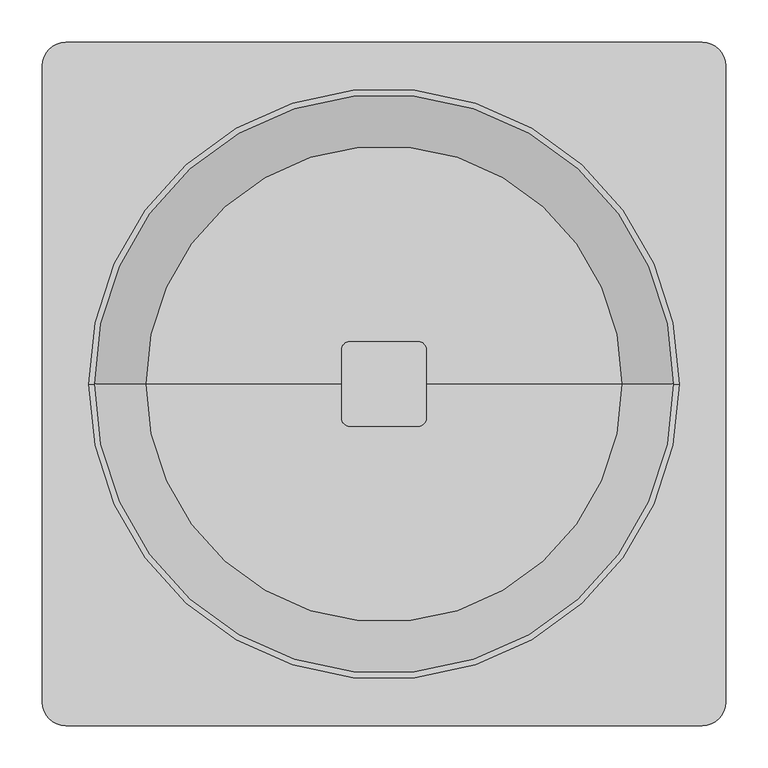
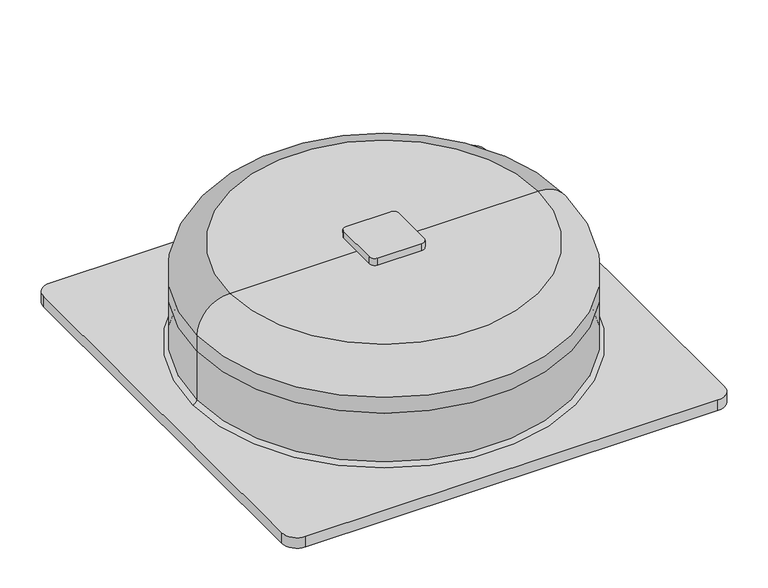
"""IFC4 building model written with IfcOpenShell, lengths in millimetres: unitary equipment geometry, VE-Wentylator-ParaForma-Harmann-WAF-Nawiewny : 630/6/8/12200T."""

from ifc_helpers import new_model, si_unit, point, frame, frame_2d, origin, origin_with_axes, origin_2d, place, context, project, spatial, polyline, circle_curve, ellipse_curve, trimmed, segment, composite_curve, outline, extrude, source, transform, mapped, element, save
from ifc_brep_helpers import plane_surface, cylinder_surface, revolved_surface, advanced_brep


def unitary_equipment_527b3e4e(model_context):
    return source(origin(), model_context, "Body", "SolidModel", [
        advanced_brep(
        [(341.0, 0.0, 120.7), (0.0, 0.0, 120.7), (-341.0, 0.0, 120.7), (341.0, 0.0, 150.8), (-341.0, 0.0, 150.8), (280.8, 0.0, 211.0), (-280.8, 0.0, 211.0), (0.0, 0.0, 211.0)],
        [
            (0, 1),
            (1, 2),
            (2, 0, circle_curve(frame((0.0, 0.0, 120.7), z_axis=(0.0, 0.0, -1.0), x_axis=(-1.0000000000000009, 0.0, 0.0)), 341.0)),
            (0, 2, circle_curve(frame((0.0, 0.0, 120.7), z_axis=(0.0, 0.0, -1.0), x_axis=(-1.0000000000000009, 0.0, 0.0)), 341.0)),
            (3, 0),
            (2, 4),
            (4, 3, circle_curve(frame((0.0, 0.0, 150.8), z_axis=(0.0, 0.0, -1.0), x_axis=(-1.0000000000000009, 0.0, 0.0)), 341.0)),
            (3, 4, circle_curve(frame((0.0, 0.0, 150.8), z_axis=(0.0, 0.0, -1.0), x_axis=(-1.0000000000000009, 0.0, 0.0)), 341.0)),
            (5, 3, circle_curve(frame((280.8, 0.0, 150.8), z_axis=(0.0, 1.0000000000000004, 0.0), x_axis=(0.0, 0.0, -1.0000000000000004)), 60.2)),
            (4, 6, circle_curve(frame((-280.8, 0.0, 150.8), z_axis=(0.0, 1.0000000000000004, 0.0), x_axis=(0.0, 0.0, -1.0000000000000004)), 60.2)),
            (6, 5, circle_curve(frame((0.0, 0.0, 211.0), z_axis=(0.0, 0.0, -1.0), x_axis=(-1.0000000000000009, 0.0, 0.0)), 280.8)),
            (5, 6, circle_curve(frame((0.0, 0.0, 211.0), z_axis=(0.0, 0.0, -1.0), x_axis=(-1.0000000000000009, 0.0, 0.0)), 280.8)),
            (7, 5),
            (6, 7),
        ],
        [
            plane_surface(frame((0.0, 0.0, 120.7), z_axis=(0.0, 0.0, -1.0), x_axis=(-1.0, 0.0, 0.0))),
            cylinder_surface(frame((0.0, 0.0, 120.7), z_axis=(0.0, 0.0, 1.0000000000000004), x_axis=(-1.0000000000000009, 0.0, 0.0)), 341.0),
            revolved_surface(trimmed(ellipse_curve(frame((-280.8, 0.0, 150.8), z_axis=(0.0, 1.0000000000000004, 0.0), x_axis=(0.0, 0.0, -1.0000000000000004)), 60.2, 60.2), [point((-341.0, 0.0, 150.8))], [point((-280.8, 0.0, 211.0))], True, "CARTESIAN"), (0.0, 0.0, 120.7), (0.0, 0.0, 1.0000000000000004)),
            plane_surface(frame((0.0, 0.0, 211.0), z_axis=(0.0, 0.0, 1.0), x_axis=(-1.0, 0.0, 0.0))),
        ],
        [
            (0, [[1, 2, 3]]),
            (0, [[-2, -1, 4]]),
            (1, [[5, -3, 6, 7]]),
            (1, [[-6, -4, -5, 8]]),
            (2, [[9, -7, 10, 11]]),
            (2, [[-10, -8, -9, 12]]),
            (3, [[13, -11, 14]]),
            (3, [[-14, -12, -13]]),
        ],
    ),
        advanced_brep(
        [(0.0, 0.0, 120.7), (341.0, 0.0, 120.7), (-341.0, 0.0, 120.7), (348.0, 0.0, 20.0), (0.0, 0.0, 20.0), (-348.0, 0.0, 20.0), (341.0, 0.0, 27.0), (-341.0, 0.0, 27.0)],
        [
            (0, 1),
            (1, 2, circle_curve(frame((0.0, 0.0, 120.7), z_axis=(0.0, 0.0, 1.0), x_axis=(-1.0000000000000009, 0.0, 0.0)), 341.0)),
            (2, 0),
            (2, 1, circle_curve(frame((0.0, 0.0, 120.7), z_axis=(0.0, 0.0, 1.0), x_axis=(-1.0000000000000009, 0.0, 0.0)), 341.0)),
            (3, 4),
            (4, 5),
            (5, 3, circle_curve(frame((0.0, 0.0, 20.0), z_axis=(0.0, 0.0, -1.0), x_axis=(-1.0000000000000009, 0.0, 0.0)), 348.0)),
            (3, 5, circle_curve(frame((0.0, 0.0, 20.0), z_axis=(0.0, 0.0, -1.0), x_axis=(-1.0000000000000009, 0.0, 0.0)), 348.0)),
            (6, 3, circle_curve(frame((348.0, 0.0, 27.0), z_axis=(0.0, -1.0000000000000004, 0.0), x_axis=(0.0, 0.0, -1.0000000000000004)), 7.0)),
            (5, 7, circle_curve(frame((-348.0, 0.0, 27.0), z_axis=(0.0, -1.0000000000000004, 0.0), x_axis=(0.0, 0.0, -1.0000000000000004)), 7.0)),
            (7, 6, circle_curve(frame((0.0, 0.0, 27.0), z_axis=(0.0, 0.0, -1.0), x_axis=(-1.0000000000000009, 0.0, 0.0)), 341.0)),
            (6, 7, circle_curve(frame((0.0, 0.0, 27.0), z_axis=(0.0, 0.0, -1.0), x_axis=(-1.0000000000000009, 0.0, 0.0)), 341.0)),
            (1, 6),
            (7, 2),
        ],
        [
            plane_surface(frame((0.0, 0.0, 120.7), z_axis=(0.0, 0.0, 1.0), x_axis=(-1.0, 0.0, 0.0))),
            plane_surface(frame((0.0, 0.0, 20.0), z_axis=(0.0, 0.0, -1.0), x_axis=(-1.0, 0.0, 0.0))),
            revolved_surface(trimmed(ellipse_curve(frame((-348.0, 0.0, 27.0), z_axis=(0.0, -1.0000000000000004, 0.0), x_axis=(0.0, 0.0, -1.0000000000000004)), 7.0, 7.0), [point((-348.0, 0.0, 20.0))], [point((-341.0, 0.0, 27.0))], True, "CARTESIAN"), (0.0, 0.0, 120.7), (0.0, 0.0, 1.0000000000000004)),
            cylinder_surface(frame((0.0, 0.0, 120.7), z_axis=(0.0, 0.0, 1.0000000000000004), x_axis=(-1.0000000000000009, 0.0, 0.0)), 341.0),
        ],
        [
            (0, [[1, 2, 3]]),
            (0, [[-3, 4, -1]]),
            (1, [[5, 6, 7]]),
            (1, [[-6, -5, 8]]),
            (2, [[9, -7, 10, 11]]),
            (2, [[-10, -8, -9, 12]]),
            (3, [[13, -11, 14, -2]]),
            (3, [[-14, -12, -13, -4]]),
        ],
    ),
        extrude(outline(composite_curve([segment(trimmed(circle_curve(origin_2d(), 50.0), [point((50.0, 0.0))], [point((-50.0, 0.0))], False, "CARTESIAN"), True, "CONTINUOUS"), segment(trimmed(circle_curve(origin_2d(), 50.0), [point((-50.0, 0.0))], [point((50.0, 0.0))], False, "CARTESIAN"), True, "CONTINUOUS")], self_intersect=False)), frame((0.0, 0.0, -2.0), z_axis=(0.0, 0.0, 1.0), x_axis=(1.0, 0.0, 0.0)), (0.0, 0.0, 1.0), 2.0),
        extrude(outline(composite_curve([segment(trimmed(circle_curve(frame_2d((40.0, 40.0)), 10.0), [point((40.0, 50.0))], [point((50.0, 40.0))], False, "CARTESIAN"), True, "CONTINUOUS"), segment(polyline([(50.0, 40.0), (50.0, -40.0)]), True, "CONTINUOUS"), segment(trimmed(circle_curve(frame_2d((40.0, -40.0)), 10.0), [point((50.0, -40.0))], [point((40.0, -50.0))], False, "CARTESIAN"), True, "CONTINUOUS"), segment(polyline([(40.0, -50.0), (-40.0, -50.0)]), True, "CONTINUOUS"), segment(trimmed(circle_curve(frame_2d((-40.0, -40.0)), 10.0), [point((-40.0, -50.0))], [point((-50.0, -40.0))], False, "CARTESIAN"), True, "CONTINUOUS"), segment(polyline([(-50.0, -40.0), (-50.0, 40.0)]), True, "CONTINUOUS"), segment(trimmed(circle_curve(frame_2d((-40.0, 40.0)), 10.0), [point((-50.0, 40.0))], [point((-40.0, 50.0))], False, "CARTESIAN"), True, "CONTINUOUS"), segment(polyline([(-40.0, 50.0), (40.0, 50.0)]), True, "CONTINUOUS")], self_intersect=False)), frame((0.0, 0.0, 211.0), z_axis=(0.0, 0.0, 1.0), x_axis=(1.0, 0.0, 0.0)), (0.0, 0.0, 1.0), 14.0),
        extrude(outline(composite_curve([segment(trimmed(circle_curve(frame_2d((375.0, 375.0)), 27.5), [point((375.0, 402.5))], [point((402.5, 375.0))], False, "CARTESIAN"), True, "CONTINUOUS"), segment(polyline([(402.5, 375.0), (402.5, -375.0)]), True, "CONTINUOUS"), segment(trimmed(circle_curve(frame_2d((375.0, -375.0)), 27.5), [point((402.5, -375.0))], [point((375.0, -402.5))], False, "CARTESIAN"), True, "CONTINUOUS"), segment(polyline([(375.0, -402.5), (-375.0, -402.5)]), True, "CONTINUOUS"), segment(trimmed(circle_curve(frame_2d((-375.0, -375.0)), 27.5), [point((-375.0, -402.5))], [point((-402.5, -375.0))], False, "CARTESIAN"), True, "CONTINUOUS"), segment(polyline([(-402.5, -375.0), (-402.5, 375.0)]), True, "CONTINUOUS"), segment(trimmed(circle_curve(frame_2d((-375.0, 375.0)), 27.5), [point((-402.5, 375.0))], [point((-375.0, 402.5))], False, "CARTESIAN"), True, "CONTINUOUS"), segment(polyline([(-375.0, 402.5), (375.0, 402.5)]), True, "CONTINUOUS")], self_intersect=False)), origin_with_axes(), (0.0, 0.0, 1.0), 20.0),
    ])


if __name__ == "__main__":
    model = new_model("IFC4")
    model_context = context("Model", 3, world=origin())
    ifc_project = project(units=[si_unit("LENGTHUNIT", "METRE", prefix="MILLI")], contexts=[model_context])
    site = spatial("IfcSite", under=ifc_project)
    building = spatial("IfcBuilding", under=site)
    placement = place(None, origin())
    unitary_equipment_shape = unitary_equipment_527b3e4e(model_context)
    element("IfcUnitaryEquipment", 1, ObjectType="VE-Wentylator-ParaForma-Harmann-WAF-Nawiewny : 630/6/8/12200T", at=placement, inside=building, context=model_context, shape_type="MappedRepresentation", body=[
        mapped(unitary_equipment_shape, transform((0.0, 0.0, 0.0), x_axis=(1.0, 0.0, 0.0), y_axis=(0.0, 1.0, 0.0), z_axis=(0.0, 0.0, 1.0))),
    ])
    save(model, "model.ifc")
